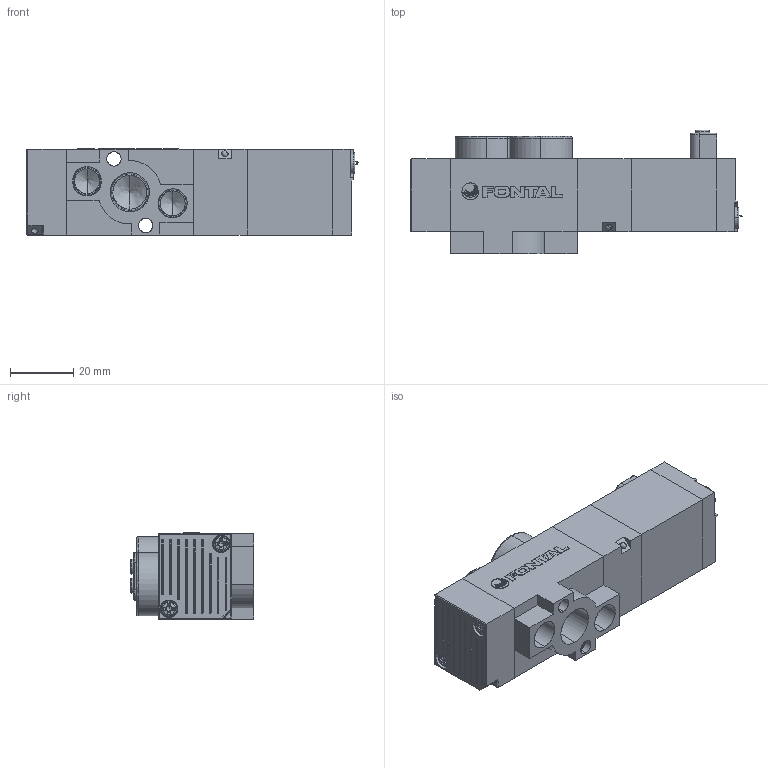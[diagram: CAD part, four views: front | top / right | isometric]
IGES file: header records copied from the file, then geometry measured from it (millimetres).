
Start section: SolidWorks IGES file using analytic representation for surfaces
Global section: file name: D:\Custom\3D繪製\PC\RC06\RCS2406-02-#L##.IGS,1; native system: 5HSolidWorks 2014; preprocessor: SolidWorks 2014; author: Chieh_Lu; date: 150803.214534; units: millimetre
Bounding box: 104.72 x 39 x 27.15 mm (x, y, z)
Surface area: 23576.2 mm2 (no closed solid volume)
Topology: 0 solids, 0 shells, 506 faces, 5049 edges, 4988 vertices
Faces by surface type: bspline 276, revolution 230
